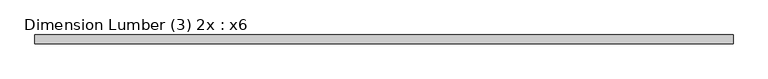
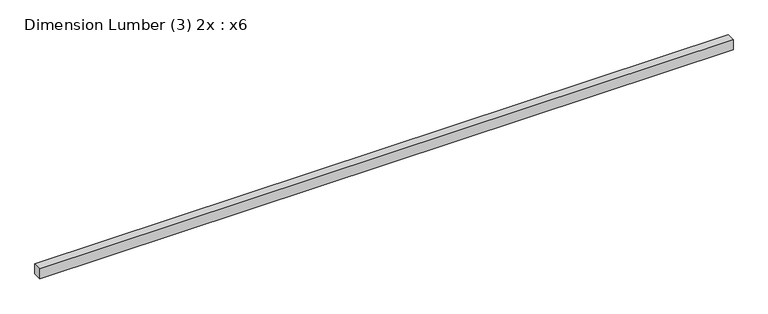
"""IFC4 building model written with IfcOpenShell, lengths in millimetres: beam geometry, Dimension Lumber (3) 2x : x6."""

from ifc_helpers import new_model, si_unit, frame, origin, place, context, project, spatial, polyline, outline, extrude, source, transform, mapped, element, save


def dimension_lumber_3_2x_x6_7889dbe4(model_context):
    return source(origin(), model_context, "Body", "SweptSolid", [
        extrude(outline(polyline([(4603.75, 57.15), (4603.75, -57.15), (-4540.25, -57.15), (-4540.25, 57.15), (4603.75, 57.15)])), frame((0.0, 0.0, -69.85), z_axis=(0.0, 0.0, 1.0), x_axis=(1.0, 0.0, 0.0)), (0.0, 0.0, 1.0), 139.7),
    ])


if __name__ == "__main__":
    model = new_model("IFC4")
    model_context = context("Model", 3, world=origin())
    ifc_project = project(units=[si_unit("LENGTHUNIT", "METRE", prefix="MILLI")], contexts=[model_context])
    site = spatial("IfcSite", under=ifc_project)
    building = spatial("IfcBuilding", under=site)
    placement = place(None, origin())
    dimension_lumber_3_2x_x6_shape = dimension_lumber_3_2x_x6_7889dbe4(model_context)
    element("IfcBeam", 1, ObjectType="Dimension Lumber (3) 2x : x6", at=placement, inside=building, context=model_context, shape_type="MappedRepresentation", body=[
        mapped(dimension_lumber_3_2x_x6_shape, transform((0.0, 0.0, 0.0), x_axis=(1.0, 0.0, 0.0), y_axis=(0.0, 1.0, 0.0), z_axis=(0.0, 0.0, 1.0))),
    ])
    save(model, "model.ifc")
